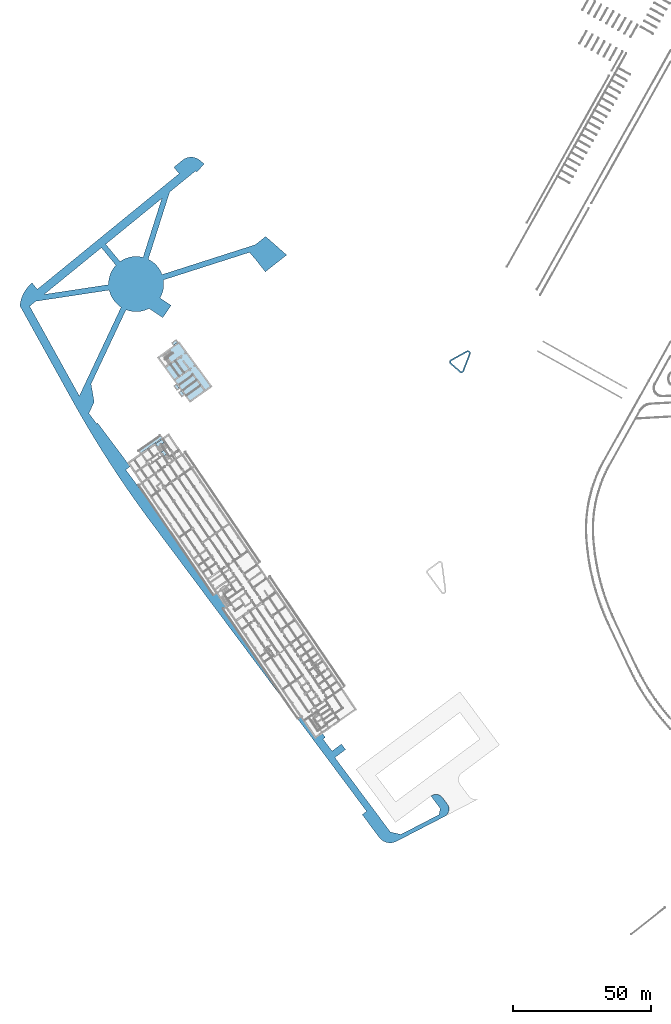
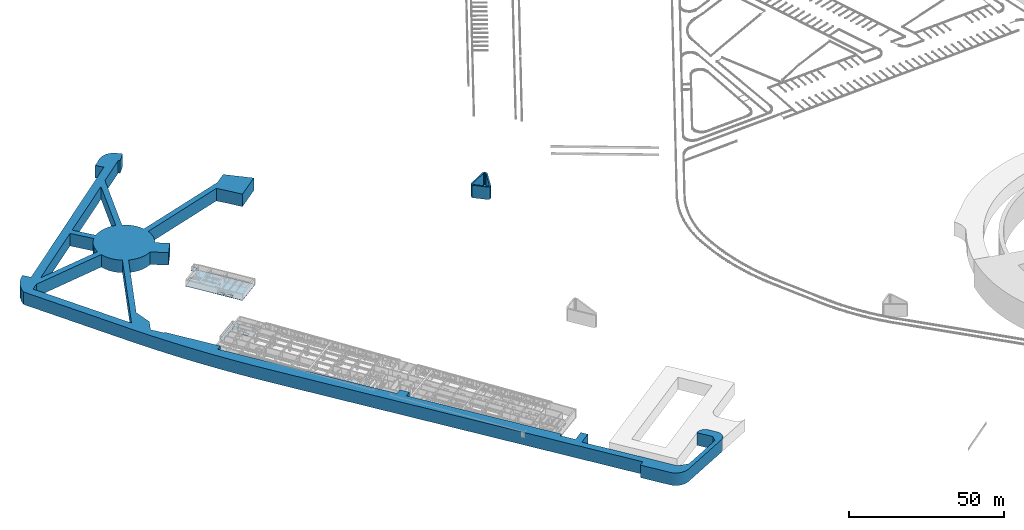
# One storey, part 11 of 112: 9 slabs, 1 element without a shape of its own.
"""IFC2X3 building model written with IfcOpenShell, lengths in millimetres."""

from ifc_helpers import new_model, entity, si_unit, converted_unit, derived_unit, direction, frame, frame_2d, origin, place, context, subcontext, project, spatial, polyline, circle_curve, parameter, trimmed, segment, composite_curve, rectangle, outline, extrude, material, layer, layer_set, layer_usage, type_object, element, aggregate, save


model = new_model("IFC2X3")

# Units and contexts
model_context = context("Model", 3, precision=0.01, world=origin(), true_north=direction((6.123031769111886e-17, 1.0)))
body_context = subcontext(model_context, "Body", "Model", "MODEL_VIEW")
ifc_project = project(units=[si_unit("LENGTHUNIT", "METRE", prefix="MILLI"), si_unit("AREAUNIT", "SQUARE_METRE"), si_unit("VOLUMEUNIT", "CUBIC_METRE"), converted_unit("PLANEANGLEUNIT", "DEGREE", entity("IfcRatioMeasure", 0.017453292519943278), si_unit("PLANEANGLEUNIT", "RADIAN"), dimensions=[0, 0, 0, 0, 0, 0, 0]), si_unit("MASSUNIT", "GRAM", prefix="KILO"), derived_unit("MASSDENSITYUNIT", [(si_unit("MASSUNIT", "GRAM", prefix="KILO"), 1), (si_unit("LENGTHUNIT", "METRE"), -3)]), derived_unit("MOMENTOFINERTIAUNIT", [(si_unit("LENGTHUNIT", "METRE"), 4)]), si_unit("TIMEUNIT", "SECOND"), si_unit("FREQUENCYUNIT", "HERTZ"), si_unit("THERMODYNAMICTEMPERATUREUNIT", "DEGREE_CELSIUS"), derived_unit("THERMALTRANSMITTANCEUNIT", [(si_unit("MASSUNIT", "GRAM", prefix="KILO"), 1), (si_unit("THERMODYNAMICTEMPERATUREUNIT", "KELVIN"), -1), (si_unit("TIMEUNIT", "SECOND"), -3)]), derived_unit("THERMALCONDUCTANCEUNIT", [(si_unit("MASSUNIT", "GRAM", prefix="KILO"), 1), (si_unit("LENGTHUNIT", "METRE"), 1), (si_unit("THERMODYNAMICTEMPERATUREUNIT", "KELVIN"), -1), (si_unit("TIMEUNIT", "SECOND"), -3)]), derived_unit("VOLUMETRICFLOWRATEUNIT", [(si_unit("LENGTHUNIT", "METRE"), 3), (si_unit("TIMEUNIT", "SECOND"), -1)]), derived_unit("MASSFLOWRATEUNIT", [(si_unit("MASSUNIT", "GRAM", prefix="KILO"), 1), (si_unit("TIMEUNIT", "SECOND"), -1)]), derived_unit("ROTATIONALFREQUENCYUNIT", [(si_unit("TIMEUNIT", "SECOND"), -1)]), si_unit("ELECTRICCURRENTUNIT", "AMPERE"), si_unit("ELECTRICVOLTAGEUNIT", "VOLT"), si_unit("POWERUNIT", "WATT"), converted_unit("FORCEUNIT", "KIP", entity("IfcRatioMeasure", 2.088543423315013e-05), si_unit("FORCEUNIT", "NEWTON"), dimensions=[1, 1, -2, 0, 0, 0, 0]), si_unit("ILLUMINANCEUNIT", "LUX"), si_unit("LUMINOUSFLUXUNIT", "LUMEN"), si_unit("LUMINOUSINTENSITYUNIT", "CANDELA"), derived_unit("USERDEFINED", [(si_unit("MASSUNIT", "GRAM", prefix="KILO"), -1), (si_unit("LENGTHUNIT", "METRE"), -2), (si_unit("TIMEUNIT", "SECOND"), 3), (si_unit("LUMINOUSFLUXUNIT", "LUMEN"), 1)]), derived_unit("USERDEFINED", [(si_unit("MASSUNIT", "GRAM", prefix="KILO"), 1), (si_unit("LENGTHUNIT", "METRE"), 3), (si_unit("TIMEUNIT", "SECOND"), -3), (si_unit("ELECTRICCURRENTUNIT", "AMPERE"), -2)]), derived_unit("USERDEFINED", [(si_unit("LENGTHUNIT", "METRE"), 2), (si_unit("TIMEUNIT", "SECOND"), -2)]), derived_unit("SOUNDPOWERUNIT", [(si_unit("MASSUNIT", "GRAM", prefix="KILO"), 1), (si_unit("LENGTHUNIT", "METRE"), 2), (si_unit("TIMEUNIT", "SECOND"), -3)]), derived_unit("SOUNDPRESSUREUNIT", [(si_unit("MASSUNIT", "GRAM", prefix="KILO"), 1), (si_unit("LENGTHUNIT", "METRE"), -1), (si_unit("TIMEUNIT", "SECOND"), -2)]), derived_unit("LINEARVELOCITYUNIT", [(si_unit("LENGTHUNIT", "METRE"), 1), (si_unit("TIMEUNIT", "SECOND"), -1)]), si_unit("PRESSUREUNIT", "PASCAL"), derived_unit("USERDEFINED", [(si_unit("LENGTHUNIT", "METRE"), -2), (si_unit("MASSUNIT", "GRAM", prefix="KILO"), 1), (si_unit("TIMEUNIT", "SECOND"), -2)]), derived_unit("LINEARFORCEUNIT", [(si_unit("MASSUNIT", "GRAM", prefix="KILO"), 1), (si_unit("LENGTHUNIT", "METRE"), 1), (si_unit("TIMEUNIT", "SECOND"), -2), (si_unit("LENGTHUNIT", "METRE"), -1)]), derived_unit("PLANARFORCEUNIT", [(si_unit("MASSUNIT", "GRAM", prefix="KILO"), 1), (si_unit("LENGTHUNIT", "METRE"), 1), (si_unit("TIMEUNIT", "SECOND"), -2), (si_unit("LENGTHUNIT", "METRE"), -2)]), derived_unit("SPECIFICHEATCAPACITYUNIT", [(si_unit("LENGTHUNIT", "METRE"), 2), (si_unit("TIMEUNIT", "SECOND"), -2), (si_unit("THERMODYNAMICTEMPERATUREUNIT", "KELVIN"), -1)]), derived_unit("VAPORPERMEABILITYUNIT", [(si_unit("TIMEUNIT", "SECOND"), 1), (si_unit("LENGTHUNIT", "METRE"), -1)]), derived_unit("DYNAMICVISCOSITYUNIT", [(si_unit("MASSUNIT", "GRAM", prefix="KILO"), 1), (si_unit("LENGTHUNIT", "METRE"), -1), (si_unit("TIMEUNIT", "SECOND"), -1)]), derived_unit("THERMALEXPANSIONCOEFFICIENTUNIT", [(si_unit("THERMODYNAMICTEMPERATUREUNIT", "KELVIN"), -1)])], contexts=[model_context])

# Site, building, storey
site_placement = place(None, frame((0.0, 0.0, 0.0), z_axis=(0.0, 0.0, 1.0), x_axis=(0.8191520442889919, 0.5735764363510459, 0.0)))
site = spatial("IfcSite", under=ifc_project, at=site_placement, Name="Default", CompositionType="ELEMENT")
building_placement = place(site_placement, origin())
building = spatial("IfcBuilding", under=site, at=building_placement, CompositionType="ELEMENT")
storey_placement = place(building_placement, frame((0.0, 0.0, -3600.0)))
storey = spatial("IfcBuildingStorey", under=building, at=storey_placement, Name="0.UG -3.60", CompositionType="ELEMENT", Elevation=-3600.0000000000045)

# Slabs
ifc_material_1 = material(Name="Paveta")
slab_type_1 = type_object("IfcSlabType", Name="Slab-172", PredefinedType="FLOOR", material=ifc_material_1)
slab_1_placement = place(storey_placement, origin())
element("IfcSlab", 1, at=slab_1_placement, inside=storey, type_object=slab_type_1, Name="Slab-172:Slab-172", ObjectType="Slab-172:Slab-172", PredefinedType="FLOOR", context=body_context, shape_type="SweptSolid", body=[
    extrude(outline(composite_curve([segment(trimmed(circle_curve(frame_2d((-5194.75650919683, -357135.95717641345), x_axis=(-0.053208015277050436, 0.9985834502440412)), 391000.00000005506), [parameter(356.9499649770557)], [parameter(359.99681647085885)], True, "PARAMETER"), True, "CONTINUOUS"), segment(trimmed(circle_curve(frame_2d((-5194.756509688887, -357135.9571765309), x_axis=(-0.13469262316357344, 0.9908874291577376)), 391000.0000001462), [parameter(355.30600533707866)], [parameter(359.9999999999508)], True, "PARAMETER"), True, "CONTINUOUS"), segment(polyline([(-57859.57216296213, 30301.02762528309), (-96294.15147500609, 25076.565032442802)]), True, "CONTINUOUS"), segment(trimmed(circle_curve(frame_2d((-88374.42161945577, 16061.140526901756), x_axis=(-0.9990531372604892, 0.04350665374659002)), 12000.000000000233), [parameter(313.7916906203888)], [parameter(3.053332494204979e-13)], True, "PARAMETER"), True, "CONTINUOUS"), segment(polyline([(-100363.05926663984, 16583.220371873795), (-97365.89985484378, 16452.700410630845)]), True, "CONTINUOUS"), segment(polyline([(-97365.89985484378, 16452.700410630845), (-100249.98836333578, -49775.27679192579)]), True, "CONTINUOUS"), segment(polyline([(-100249.98836333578, -49775.27679192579), (-103247.1477751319, -49644.75683068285)]), True, "CONTINUOUS"), segment(polyline([(-103247.1477751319, -49644.75683068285), (-103421.45883681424, -53647.50119350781)]), True, "CONTINUOUS"), segment(trimmed(circle_curve(frame_2d((-98426.19315048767, -53865.03446224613), x_axis=(-0.20697113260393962, -0.9783470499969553)), 4999.999999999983), [parameter(279.4513769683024)], [parameter(359.9999999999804)], True, "PARAMETER"), True, "CONTINUOUS"), segment(polyline([(-99461.04881355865, -58756.76971229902), (-97668.03830223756, -59136.08441081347)]), True, "CONTINUOUS"), segment(polyline([(-97668.03830223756, -59136.08441081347), (-96840.15377336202, -55222.696215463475)]), True, "CONTINUOUS"), segment(polyline([(-96840.15377336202, -55222.696215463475), (-97478.48795114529, -55087.65543656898)]), True, "CONTINUOUS"), segment(polyline([(-97478.48795114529, -55087.65543656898), (-96954.64868094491, -43058.61570963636)]), True, "CONTINUOUS"), segment(polyline([(-96954.64868094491, -43058.61570963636), (-82069.95480032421, -22279.79719844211)]), True, "CONTINUOUS"), segment(trimmed(circle_curve(frame_2d((-77493.24674600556, -13388.579993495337), x_axis=(0.2861568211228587, -0.9581827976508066)), 10000.000000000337), [parameter(316.1350795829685)], [parameter(0.0)], True, "PARAMETER"), True, "CONTINUOUS"), segment(polyline([(-74631.6785348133, -22970.407970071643), (-63124.29981205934, -56482.79355342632)]), True, "CONTINUOUS"), segment(polyline([(-63124.29981205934, -56482.79355342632), (-63247.50537700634, -61307.150874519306)]), True, "CONTINUOUS"), segment(polyline([(-63247.50537700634, -61307.150874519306), (-53321.508650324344, -63407.01388669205)]), True, "CONTINUOUS"), segment(polyline([(-53321.508650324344, -63407.01388669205), (-53069.73243535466, -53548.218738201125)]), True, "CONTINUOUS"), segment(polyline([(-53069.73243535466, -53548.218738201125), (-58357.35936501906, -53410.97708893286)]), True, "CONTINUOUS"), segment(polyline([(-58357.35936501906, -53410.97708893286), (-62140.9087914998, -53188.36084760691)]), True, "CONTINUOUS"), segment(polyline([(-62140.9087914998, -53188.36084760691), (-72778.9756821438, -22207.63030157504)]), True, "CONTINUOUS"), segment(trimmed(circle_curve(frame_2d((-77493.24674600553, -13388.579993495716), x_axis=(0.9198886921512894, -0.3921795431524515)), 9999.999999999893), [parameter(321.2171581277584)], [parameter(0.0)], True, "PARAMETER"), True, "CONTINUOUS"), segment(polyline([(-68294.3598245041, -17310.37542485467), (-63707.332214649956, -18902.609113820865)]), True, "CONTINUOUS"), segment(polyline([(-63707.332214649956, -18902.609113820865), (-61954.74042808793, -13816.479442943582)]), True, "CONTINUOUS"), segment(polyline([(-61954.74042808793, -13816.479442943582), (-67611.98305031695, -11852.146533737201)]), True, "CONTINUOUS"), segment(trimmed(circle_curve(frame_2d((-77493.2467460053, -13388.579993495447), x_axis=(0.5273830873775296, 0.8496276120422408)), 9999.999999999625), [parameter(310.6669337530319)], [parameter(0.0)], True, "PARAMETER"), True, "CONTINUOUS"), segment(polyline([(-72219.41587219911, -4892.303873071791), (-58243.116053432, 21320.702787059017)]), True, "CONTINUOUS"), segment(polyline([(-58243.116053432, 21320.702787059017), (-52302.08015823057, 24367.352040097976)]), True, "CONTINUOUS"), segment(polyline([(-52302.08015823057, 24367.352040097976), (-50185.4489585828, 28337.162966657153)]), True, "CONTINUOUS"), segment(polyline([(-50185.4489585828, 28337.162966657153), (-45419.44739536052, 28304.538935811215)]), True, "CONTINUOUS"), segment(polyline([(-45419.44739536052, 28304.538935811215), (-45418.10253316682, 27870.26834482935)]), True, "CONTINUOUS"), segment(polyline([(-45418.10253316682, 27870.26834482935), (-25815.46868477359, 27857.760677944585)]), True, "CONTINUOUS"), segment(polyline([(-25815.46868477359, 27857.760677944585), (-25815.468684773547, 29864.042823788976)]), True, "CONTINUOUS"), segment(polyline([(-25815.468684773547, 29864.042823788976), (37290.969444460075, 29864.04282378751)]), True, "CONTINUOUS"), segment(polyline([(37290.969444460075, 29864.04282378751), (37288.024820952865, 27677.56270099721)]), True, "CONTINUOUS"), segment(polyline([(37288.024820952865, 27677.56270099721), (40650.21799317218, 27667.961641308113)]), True, "CONTINUOUS"), segment(polyline([(40650.21799317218, 27667.961641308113), (40647.22573453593, 29864.042823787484)]), True, "CONTINUOUS"), segment(polyline([(40647.22573453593, 29864.042823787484), (95115.8099576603, 29864.04282378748)]), True, "CONTINUOUS"), segment(polyline([(95115.8099576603, 29864.04282378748), (95118.98311690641, 30864.133966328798)]), True, "CONTINUOUS"), segment(polyline([(95118.98311690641, 30864.133966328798), (100549.31399261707, 30864.04282356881)]), True, "CONTINUOUS"), segment(polyline([(100549.31399261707, 30864.04282356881), (100549.27769831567, 26614.07271327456)]), True, "CONTINUOUS"), segment(polyline([(100549.27769831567, 26614.07271327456), (103049.12898671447, 26614.051364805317)]), True, "CONTINUOUS"), segment(polyline([(103049.12898671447, 26614.051364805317), (103049.12909880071, 31439.965629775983)]), True, "CONTINUOUS"), segment(polyline([(103049.12909880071, 31439.965629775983), (136697.0880880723, 31439.830426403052)]), True, "CONTINUOUS"), segment(polyline([(136697.0880880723, 31439.830426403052), (139656.81836690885, 28929.652852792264)]), True, "CONTINUOUS"), segment(polyline([(139656.81836690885, 28929.652852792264), (142192.31796255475, 13608.949624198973)]), True, "CONTINUOUS"), segment(polyline([(142192.31796255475, 13608.949624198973), (140712.4469638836, 11864.038454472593)]), True, "CONTINUOUS"), segment(polyline([(140712.4469638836, 11864.038454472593), (135049.12909564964, 11864.03839748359)]), True, "CONTINUOUS"), segment(trimmed(circle_curve(frame_2d((138049.129106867, 11864.038438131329), x_axis=(1.3562384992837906e-08, -1.0)), 3000.0000112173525), [parameter(270.00000000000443)], [parameter(359.99999978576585)], True, "PARAMETER"), True, "CONTINUOUS"), segment(polyline([(138049.1291362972, 8864.038426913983), (140960.6894801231, 8864.038455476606)]), True, "CONTINUOUS"), segment(trimmed(circle_curve(frame_2d((140960.68945069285, 11864.03845547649), x_axis=(0.9865807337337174, 0.16327417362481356)), 2999.9999999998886), [parameter(260.60300820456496)], [parameter(359.99999999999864)], True, "PARAMETER"), True, "CONTINUOUS"), segment(polyline([(143920.4316519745, 12353.860976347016), (140721.98390653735, 31680.41369168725)]), True, "CONTINUOUS"), segment(trimmed(circle_curve(frame_2d((135789.08023773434, 30864.042823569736), x_axis=(0.0, 1.0)), 5000.000000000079), [parameter(279.3969923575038)], [parameter(6.106664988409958e-13)], True, "PARAMETER"), True, "CONTINUOUS"), segment(polyline([(135789.0802377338, 35864.04282356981), (125523.75824149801, 35864.042823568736)]), True, "CONTINUOUS"), segment(polyline([(125523.75824149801, 35864.042823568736), (125523.74116170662, 33864.042823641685)]), True, "CONTINUOUS"), segment(polyline([(125523.74116170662, 33864.042823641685), (-5194.756509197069, 33864.042823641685)]), True, "CONTINUOUS")], self_intersect=False), holes=[composite_curve([segment(polyline([(-57294.81827398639, 27350.206239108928), (-74016.75546535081, -4012.332963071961)]), True, "CONTINUOUS"), segment(trimmed(circle_curve(frame_2d((-77493.24674600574, -13388.579993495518), x_axis=(-0.40639438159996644, 0.9136977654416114)), 9999.999999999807), [parameter(315.6778716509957)], [parameter(4.579998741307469e-13)], True, "PARAMETER"), True, "CONTINUOUS"), segment(polyline([(-81557.19056210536, -4251.60233895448), (-94230.46558188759, 19497.41738321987)]), True, "CONTINUOUS"), segment(polyline([(-94230.46558188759, 19497.41738321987), (-94106.4001573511, 22346.359807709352)]), True, "CONTINUOUS"), segment(polyline([(-94106.4001573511, 22346.359807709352), (-57294.81827398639, 27350.206239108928)]), True, "CONTINUOUS")], self_intersect=False), composite_curve([segment(polyline([(-95566.26695611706, -11176.89191731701), (-94401.50511829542, 15569.79779574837)]), True, "CONTINUOUS"), segment(polyline([(-94401.50511829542, 15569.79779574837), (-83294.813452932, -5243.530960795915)]), True, "CONTINUOUS"), segment(trimmed(circle_curve(frame_2d((-77493.24674600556, -13388.579993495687), x_axis=(-0.983478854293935, 0.18102304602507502)), 10000.000000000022), [parameter(315.8909177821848)], [parameter(0.0)], True, "PARAMETER"), True, "CONTINUOUS"), segment(polyline([(-87328.03528872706, -11578.349533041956), (-95566.26695611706, -11176.89191731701)]), True, "CONTINUOUS")], self_intersect=False), composite_curve([segment(polyline([(-95653.28142746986, -13175.024917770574), (-87491.55058845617, -13572.754568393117)]), True, "CONTINUOUS"), segment(trimmed(circle_curve(frame_2d((-77493.24674600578, -13388.57999349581), x_axis=(-0.6256161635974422, -0.780131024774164)), 9999.999999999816), [parameter(309.78272877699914)], [parameter(359.99999999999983)], True, "PARAMETER"), True, "CONTINUOUS"), segment(polyline([(-83749.4083821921, -21189.89024126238), (-96795.40717023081, -39401.9168565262)]), True, "CONTINUOUS"), segment(polyline([(-96795.40717023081, -39401.9168565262), (-95653.28142746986, -13175.024917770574)]), True, "CONTINUOUS")], self_intersect=False)]), frame((-193689.0208361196, 146309.3572919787, -1350.0), z_axis=(0.0, 0.0, -1.0), x_axis=(0.029878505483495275, -0.9995535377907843, 0.0)), (0.0, 0.0, -1.0), 4950.0),
])
ifc_material_2 = material(Name="_granite_06 elementi novi")
slab_type_2 = type_object("IfcSlabType", Name="Slab-180", PredefinedType="FLOOR", material=ifc_material_2)
slab_2_placement = place(storey_placement, origin())
element("IfcSlab", 2, at=slab_2_placement, inside=storey, type_object=slab_type_2, Name="Slab-180 256650:Slab-180 256650", ObjectType="Slab-180 256650:Slab-180 256650", PredefinedType="FLOOR", context=body_context, shape_type="SweptSolid", body=[
    extrude(outline(composite_curve([segment(polyline([(-2210.461792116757, -2917.316945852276), (2232.1375624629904, -2917.3169458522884)]), True, "CONTINUOUS"), segment(trimmed(circle_curve(frame_2d((2232.13756246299, -1917.3169458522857), x_axis=(0.0, -1.0)), 999.9999999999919), [parameter(1.93377724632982e-12)], [parameter(110.36391893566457)], True, "PARAMETER"), True, "CONTINUOUS"), segment(polyline([(3169.6388735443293, -1569.3352053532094), (918.7818012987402, 4494.7227916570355)]), True, "CONTINUOUS"), segment(trimmed(circle_curve(frame_2d((-18.719509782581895, 4146.74105115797), x_axis=(0.9375013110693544, 0.34798174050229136)), 999.9999999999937), [parameter(359.99999999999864)], [parameter(139.7646231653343)], True, "PARAMETER"), True, "CONTINUOUS"), segment(polyline([(-959.1770814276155, 4486.652151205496), (-3150.9193637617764, -1577.4058458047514)]), True, "CONTINUOUS"), segment(trimmed(circle_curve(frame_2d((-2210.461792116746, -1917.3169458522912), x_axis=(-0.94045757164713, 0.3399111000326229)), 1000.0000000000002), [parameter(359.99999999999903)], [parameter(109.87145789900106)], True, "PARAMETER"), True, "CONTINUOUS")], self_intersect=False), holes=[composite_curve([segment(trimmed(circle_curve(frame_2d((-18.719509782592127, 4146.741051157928), x_axis=(-0.94045757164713, 0.3399111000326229)), 500.00000000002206), [parameter(220.2353768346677)], [parameter(3.969332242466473e-12)], True, "PARAMETER"), False, "CONTINUOUS"), segment(polyline([(450.0311457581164, 4320.731921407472), (2700.8882180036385, -1743.3260756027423)]), True, "CONTINUOUS"), segment(trimmed(circle_curve(frame_2d((2232.1375624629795, -1917.316945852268), x_axis=(0.9375013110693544, 0.34798174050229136)), 499.99999999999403), [parameter(249.63608106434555)], [parameter(7.175331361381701e-12)], True, "PARAMETER"), False, "CONTINUOUS"), segment(polyline([(2232.1375624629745, -2417.3169458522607), (-2210.4617921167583, -2417.316945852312)]), True, "CONTINUOUS"), segment(trimmed(circle_curve(frame_2d((-2210.461792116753, -1917.3169458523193), x_axis=(0.0, -1.0)), 499.9999999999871), [parameter(250.1285421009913)], [parameter(359.99999999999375)], True, "PARAMETER"), False, "CONTINUOUS"), segment(polyline([(-2680.6905779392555, -1747.36139582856), (-488.9482956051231, 4316.696601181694)]), True, "CONTINUOUS")], self_intersect=False)]), frame((-102647.01594270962, 133685.96577226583, -1100.0), z_axis=(0.0, 0.0, 1.0), x_axis=(0.23611027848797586, -0.9717262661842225, 0.0)), (0.0, 0.0, 1.0), 4950.0),
])
ifc_material_3 = material(Name="Analytical Floor Surface_CJC")
ifc_layer_1 = layer(ifc_material_3, 150.0)
ifc_layer_set_1 = layer_set([ifc_layer_1], Name="Floor:Boden_CJC")
ifc_layer_usage_1 = layer_usage(ifc_layer_set_1, "AXIS3", "POSITIVE", 0.0)
slab_type_3 = type_object("IfcSlabType", Name="Floor:Boden_CJC", PredefinedType="FLOOR", material=ifc_layer_set_1)
slab_3_placement = place(storey_placement, frame((-192673.39093705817, 181190.71136440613, 800.0)))
element("IfcSlab", 3, at=slab_3_placement, inside=storey, type_object=slab_type_3, material=ifc_layer_usage_1, Name="Floor:Boden_CJC", ObjectType="Floor:Boden_CJC", PredefinedType="FLOOR", context=body_context, shape_type="SweptSolid", body=[
    extrude(outline(polyline([(5203.765046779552, -7013.646794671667), (4003.9870529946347, -6990.549444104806), (3965.037639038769, -9091.0380455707), (5164.831385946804, -9113.285851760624), (5203.765046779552, -7013.646794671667)])), frame((5257.530578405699, 9113.285851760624, 150.0), z_axis=(0.0, 0.0, -1.0), x_axis=(-1.0, 0.0, 0.0)), (0.0, 0.0, 1.0), 150.0),
])
slab_4_placement = place(storey_placement, frame((-192673.39093705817, 181190.71136440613, 800.0)))
element("IfcSlab", 4, at=slab_4_placement, inside=storey, type_object=slab_type_3, material=ifc_layer_usage_1, Name="Floor:Boden_CJC:2", ObjectType="Floor:Boden_CJC", PredefinedType="FLOOR", context=body_context, shape_type="SweptSolid", body=[
    extrude(outline(polyline([(5218.5811644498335, -6214.633841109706), (5257.530578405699, -4114.145239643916), (4057.73683149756, -4091.897433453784), (4017.316488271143, -6191.507869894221), (5218.5811644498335, -6214.633841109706)])), frame((5257.530578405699, 9113.285851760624, 150.0), z_axis=(0.0, 0.0, -1.0), x_axis=(-1.0, 0.0, 0.0)), (0.0, 0.0, 1.0), 150.0),
])
slab_5_placement = place(storey_placement, frame((-192673.39093705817, 181190.71136440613, 800.0)))
element("IfcSlab", 5, at=slab_5_placement, inside=storey, type_object=slab_type_3, material=ifc_layer_usage_1, Name="Floor:Boden_CJC:3", ObjectType="Floor:Boden_CJC", PredefinedType="FLOOR", context=body_context, shape_type="SweptSolid", body=[
    extrude(rectangle(XDim=2099.999999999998, YDim=1200.000000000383, at=frame_2d((-4124.365291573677, 8490.012018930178), x_axis=(-0.9998806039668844, 0.015452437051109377))), frame((5257.530578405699, 9113.285851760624, 150.0), z_axis=(0.0, 0.0, -1.0), x_axis=(-1.0, 0.0, 0.0)), (0.0, 0.0, 1.0), 150.0),
])

# Stair, slabs
stair_placement = place(storey_placement, origin())
stair = element("IfcStair", 6, at=stair_placement, inside=storey, Name="Precast Stair:Stair", ObjectType="Precast Stair:Stair_CJC_KH", ShapeType="NOTDEFINED")
ifc_material_4 = material(Name="Concrete, Cast-in-Place gray")
slab_type_4 = type_object("IfcSlabType", Name="Monolithic Landing:200mm_Thickness", PredefinedType="LANDING")
slab_6_placement = place(stair_placement, origin())
slab_6 = element("IfcSlab", 7, at=slab_6_placement, type_object=slab_type_4, material=ifc_material_4, Name="Precast Stair:Stair:623208 Landing 1", ObjectType="Monolithic Landing:200mm_Thickness", PredefinedType="LANDING", context=body_context, shape_type="SweptSolid", body=[
    extrude(outline(polyline([(-702.102497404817, -879.999718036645), (697.8975025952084, -879.999718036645), (702.1012640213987, 878.6856650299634), (-697.8962692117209, 881.3137710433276), (-702.102497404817, -879.999718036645)])), frame((-209429.89425586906, 168234.44634392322, 1094.652173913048), z_axis=(0.0, 0.0, 1.0), x_axis=(0.9999189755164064, -0.01272958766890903, 0.0)), (0.0, 0.0, 1.0), 0.999999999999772),
    extrude(outline(polyline([(-878.3290341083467, -699.9989540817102), (880.3613730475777, -699.9989540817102), (879.6430863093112, 700.0008616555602), (-881.675425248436, 699.9970465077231), (-878.3290341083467, -699.9989540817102)])), frame((-209429.8942558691, 168234.44634392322, 894.652173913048), z_axis=(0.0, 0.0, 1.0), x_axis=(0.015119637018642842, 0.9998856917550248, 0.0)), (0.0, 0.0, 1.0), 199.99999999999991),
])
slab_7_placement = place(stair_placement, origin())
slab_7 = element("IfcSlab", 8, at=slab_7_placement, type_object=slab_type_4, material=ifc_material_4, Name="Precast Stair:Stair:623208 Landing 2", ObjectType="Monolithic Landing:200mm_Thickness", PredefinedType="LANDING", context=body_context, shape_type="SweptSolid", body=[
    extrude(outline(polyline([(-1513.6446073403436, -407.5369457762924), (-113.6446073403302, -407.5369457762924), (-113.64460734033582, -397.8105011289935), (185.73709757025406, -397.2484952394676), (1535.7347189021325, -394.71425015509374), (1533.1066128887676, 1005.2832830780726), (-1513.6446073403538, 999.5638549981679), (-1513.6446073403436, -407.5369457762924)])), frame((-208564.36049245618, 171749.71788920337, 2346.8260869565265), z_axis=(0.0, 0.0, 1.0), x_axis=(0.9998933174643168, -0.014606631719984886, 0.0)), (0.0, 0.0, 1.0), 1.0000000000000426),
    extrude(outline(polyline([(-407.53694577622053, -113.64460734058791), (-407.53694577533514, -1513.6446073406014), (999.5638549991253, -1513.6446073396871), (1005.283283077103, 1533.1066128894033), (-394.71425015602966, 1535.734718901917), (-397.2484952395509, 185.73709756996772), (-397.810501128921, -113.64460734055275), (-407.53694577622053, -113.64460734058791)])), frame((-208564.36049245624, 171749.71788920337, 2146.826086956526), z_axis=(0.0, 0.0, -1.0), x_axis=(0.014606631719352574, 0.9998933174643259, 0.0)), (0.0, 0.0, -1.0), 199.99999999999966),
])
aggregate(stair, [slab_6, slab_7])

# Slabs
ifc_layer_2 = layer(ifc_material_3, 100.0)
ifc_layer_set_2 = layer_set([ifc_layer_2], Name="Floor:Boden_Rampe_CJC")
ifc_layer_usage_2 = layer_usage(ifc_layer_set_2, "AXIS3", "POSITIVE", 0.0)
slab_type_5 = type_object("IfcSlabType", Name="Floor:Boden_Rampe_CJC", PredefinedType="FLOOR", material=ifc_layer_set_2)
slab_8_placement = place(storey_placement, frame((-225091.2574608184, 61271.35891435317, 1500.0)))
element("IfcSlab", 9, at=slab_8_placement, inside=storey, type_object=slab_type_5, material=ifc_layer_usage_2, Name="Floor:Boden_Rampe_CJC:5", ObjectType="Floor:Boden_Rampe_CJC", PredefinedType="FLOOR", context=body_context, shape_type="SweptSolid", body=[
    extrude(outline(polyline([(2621.967555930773, 56525.0), (-7278.577377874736, 56525.0), (-7262.027572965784, 55225.0), (2638.517360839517, 55225.0), (2621.967555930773, 56525.0)])), frame((11130.503712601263, 56525.0, 100.0), z_axis=(0.0, 0.0, -1.0), x_axis=(-1.0, 0.0, 0.0)), (0.0, 0.0, 1.0), 100.0),
])
slab_9_placement = place(storey_placement, origin())
element("IfcSlab", 10, at=slab_9_placement, inside=storey, type_object=slab_type_5, material=ifc_layer_usage_2, Name="Floor:Boden_Rampe_CJC", ObjectType="Floor:Boden_Rampe_CJC", PredefinedType="FLOOR", context=body_context, shape_type="SweptSolid", body=[
    extrude(outline(polyline([(-5009.5911593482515, -10125.280110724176), (4899.0228305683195, -10125.280110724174), (5057.722917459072, 10155.817119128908), (-4947.1545886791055, 10094.743102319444), (-5009.5911593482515, -10125.280110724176)])), frame((-186527.91571013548, 188017.43185752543, -50.0), z_axis=(0.0, 0.0, -1.0), x_axis=(0.9998806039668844, 0.015452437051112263, 0.0)), (0.0, 0.0, 1.0), 100.0),
])

save(model, "model.ifc")
